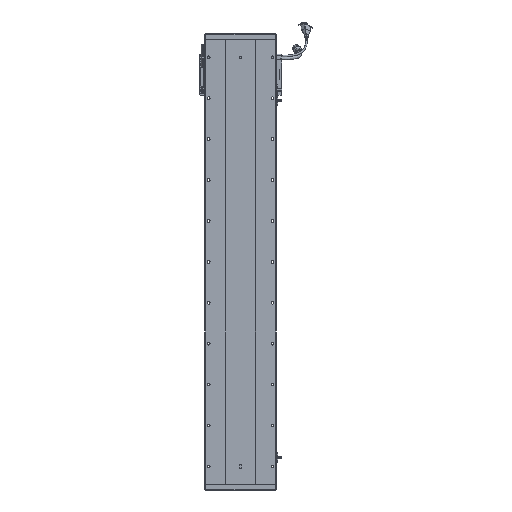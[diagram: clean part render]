
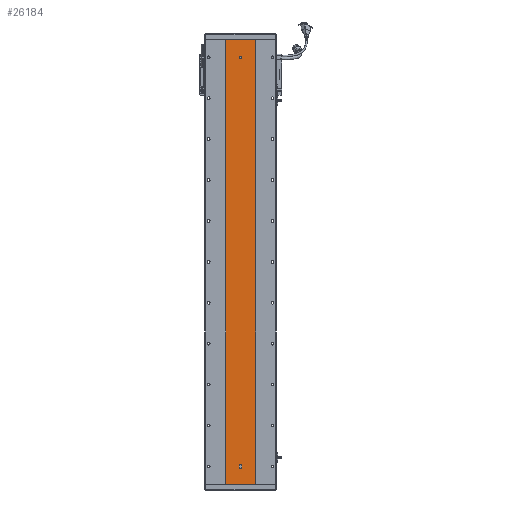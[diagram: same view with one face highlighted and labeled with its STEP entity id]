
A CAD part, front view. The second image highlights one B-rep face of the part: STEP entity #26184.
In plain terms, the highlighted planar face has unit normal (0, -1, 0).
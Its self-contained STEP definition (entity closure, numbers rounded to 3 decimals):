
#615 = AXIS2_PLACEMENT_3D ( 'NONE', #54805, #60440, #81382 ) ;
#736 = EDGE_CURVE ( 'NONE', #42211, #9853, #5295, .T. ) ;
#3143 = CARTESIAN_POINT ( 'NONE',  ( 3280.529, 1415.701, 42. ) ) ;
#4123 = DIRECTION ( 'NONE',  ( 0., 0., -1. ) ) ;
#4811 = EDGE_CURVE ( 'NONE', #84674, #58744, #32692, .T. ) ;
#5295 = CIRCLE ( 'NONE', #52925, 3. ) ;
#5492 = ORIENTED_EDGE ( 'NONE', *, *, #8928, .F. ) ;
#5669 = VECTOR ( 'NONE', #29907, 1000. ) ;
#6088 = CARTESIAN_POINT ( 'NONE',  ( 3280.529, 1415.701, 1040.5 ) ) ;
#8928 = EDGE_CURVE ( 'NONE', #68419, #28994, #79826, .T. ) ;
#9040 = EDGE_CURVE ( 'NONE', #64391, #28994, #82900, .T. ) ;
#9777 = VECTOR ( 'NONE', #24862, 1000. ) ;
#9853 = VERTEX_POINT ( 'NONE', #6088 ) ;
#10516 = CIRCLE ( 'NONE', #37977, 3. ) ;
#12006 = CARTESIAN_POINT ( 'NONE',  ( 3280.529, 1415.701, 1043.5 ) ) ;
#12290 = PLANE ( 'NONE',  #24039 ) ;
#13269 = EDGE_LOOP ( 'NONE', ( #74234, #80763 ) ) ;
#13920 = EDGE_CURVE ( 'NONE', #54475, #84674, #70787, .T. ) ;
#14614 = CIRCLE ( 'NONE', #49455, 3. ) ;
#18064 = CARTESIAN_POINT ( 'NONE',  ( 3277.529, 1415.701, 42. ) ) ;
#18380 = EDGE_LOOP ( 'NONE', ( #23683, #5492, #52383, #58412 ) ) ;
#19483 = VECTOR ( 'NONE', #4123, 1000. ) ;
#21121 = EDGE_CURVE ( 'NONE', #85695, #54475, #48979, .T. ) ;
#21193 = DIRECTION ( 'NONE',  ( 1., 0., 0. ) ) ;
#22128 = VERTEX_POINT ( 'NONE', #52193 ) ;
#23452 = CARTESIAN_POINT ( 'NONE',  ( 3277.529, 1415.701, 45. ) ) ;
#23683 = ORIENTED_EDGE ( 'NONE', *, *, #9040, .T. ) ;
#24039 = AXIS2_PLACEMENT_3D ( 'NONE', #53456, #80316, #59377 ) ;
#24862 = DIRECTION ( 'NONE',  ( 0., 0., -1. ) ) ;
#24909 = ORIENTED_EDGE ( 'NONE', *, *, #66238, .F. ) ;
#26184 = ADVANCED_FACE ( 'NONE', ( #83399, #29431, #61205 ), #12290, .F. ) ;
#28138 = CARTESIAN_POINT ( 'NONE',  ( 3280.529, 1415.701, 42. ) ) ;
#28356 = CARTESIAN_POINT ( 'NONE',  ( 3277.529, 1415.701, 45. ) ) ;
#28994 = VERTEX_POINT ( 'NONE', #40908 ) ;
#29431 = FACE_BOUND ( 'NONE', #13269, .T. ) ;
#29907 = DIRECTION ( 'NONE',  ( 1., 0., 0. ) ) ;
#30249 = CARTESIAN_POINT ( 'NONE',  ( 3316.311, 1415.701, 1087. ) ) ;
#31087 = CARTESIAN_POINT ( 'NONE',  ( 3244.748, 1415.701, 0. ) ) ;
#31479 = CARTESIAN_POINT ( 'NONE',  ( 3280.529, 1415.701, 39. ) ) ;
#31718 = DIRECTION ( 'NONE',  ( 0., 0., -1. ) ) ;
#32692 = LINE ( 'NONE', #23452, #53872 ) ;
#33045 = ORIENTED_EDGE ( 'NONE', *, *, #4811, .F. ) ;
#34167 = CARTESIAN_POINT ( 'NONE',  ( 3280.529, 1415.701, 1046.5 ) ) ;
#35202 = DIRECTION ( 'NONE',  ( 0., 0., 1. ) ) ;
#37977 = AXIS2_PLACEMENT_3D ( 'NONE', #28138, #67823, #75182 ) ;
#40908 = CARTESIAN_POINT ( 'NONE',  ( 3316.311, 1415.701, 0. ) ) ;
#42211 = VERTEX_POINT ( 'NONE', #34167 ) ;
#42469 = CARTESIAN_POINT ( 'NONE',  ( 3244.748, 1415.701, 1087. ) ) ;
#43291 = CARTESIAN_POINT ( 'NONE',  ( 3283.529, 1415.701, 45. ) ) ;
#43940 = EDGE_LOOP ( 'NONE', ( #68487, #33045, #47279, #47797, #24909 ) ) ;
#44153 = CARTESIAN_POINT ( 'NONE',  ( 3316.311, 1415.701, 1087. ) ) ;
#45358 = CARTESIAN_POINT ( 'NONE',  ( 3280.529, 1415.701, 1043.5 ) ) ;
#45925 = DIRECTION ( 'NONE',  ( 0., -1., 0. ) ) ;
#47142 = LINE ( 'NONE', #42469, #80947 ) ;
#47279 = ORIENTED_EDGE ( 'NONE', *, *, #13920, .F. ) ;
#47571 = VERTEX_POINT ( 'NONE', #31479 ) ;
#47797 = ORIENTED_EDGE ( 'NONE', *, *, #21121, .F. ) ;
#48336 = CARTESIAN_POINT ( 'NONE',  ( 3244.748, 1415.701, 0. ) ) ;
#48979 = LINE ( 'NONE', #76020, #65934 ) ;
#49455 = AXIS2_PLACEMENT_3D ( 'NONE', #3143, #84514, #57357 ) ;
#49875 = DIRECTION ( 'NONE',  ( 0., 0., -1. ) ) ;
#50093 = LINE ( 'NONE', #86331, #9777 ) ;
#50473 = EDGE_CURVE ( 'NONE', #9853, #42211, #58202, .T. ) ;
#51738 = DIRECTION ( 'NONE',  ( 0., -1., 0. ) ) ;
#52026 = DIRECTION ( 'NONE',  ( 0., 0., -1. ) ) ;
#52193 = CARTESIAN_POINT ( 'NONE',  ( 3244.748, 1415.701, 1087. ) ) ;
#52383 = ORIENTED_EDGE ( 'NONE', *, *, #83789, .F. ) ;
#52925 = AXIS2_PLACEMENT_3D ( 'NONE', #45358, #45925, #31718 ) ;
#53456 = CARTESIAN_POINT ( 'NONE',  ( 3244.748, 1415.701, 1087. ) ) ;
#53872 = VECTOR ( 'NONE', #49875, 1000. ) ;
#54475 = VERTEX_POINT ( 'NONE', #43291 ) ;
#54805 = CARTESIAN_POINT ( 'NONE',  ( 3280.529, 1415.701, 45. ) ) ;
#57357 = DIRECTION ( 'NONE',  ( 0., 0., -1. ) ) ;
#58202 = CIRCLE ( 'NONE', #80700, 3. ) ;
#58412 = ORIENTED_EDGE ( 'NONE', *, *, #86024, .T. ) ;
#58744 = VERTEX_POINT ( 'NONE', #18064 ) ;
#59377 = DIRECTION ( 'NONE',  ( 0., 0., 1. ) ) ;
#60440 = DIRECTION ( 'NONE',  ( 0., -1., 0. ) ) ;
#61205 = FACE_OUTER_BOUND ( 'NONE', #18380, .T. ) ;
#64391 = VERTEX_POINT ( 'NONE', #48336 ) ;
#65934 = VECTOR ( 'NONE', #35202, 1000. ) ;
#66238 = EDGE_CURVE ( 'NONE', #47571, #85695, #10516, .T. ) ;
#66928 = EDGE_CURVE ( 'NONE', #58744, #47571, #14614, .T. ) ;
#67823 = DIRECTION ( 'NONE',  ( 0., -1., 0. ) ) ;
#68419 = VERTEX_POINT ( 'NONE', #30249 ) ;
#68487 = ORIENTED_EDGE ( 'NONE', *, *, #66928, .F. ) ;
#69006 = CARTESIAN_POINT ( 'NONE',  ( 3283.529, 1415.701, 42. ) ) ;
#70787 = CIRCLE ( 'NONE', #615, 3. ) ;
#74234 = ORIENTED_EDGE ( 'NONE', *, *, #50473, .F. ) ;
#75182 = DIRECTION ( 'NONE',  ( 0., 0., -1. ) ) ;
#76020 = CARTESIAN_POINT ( 'NONE',  ( 3283.529, 1415.701, 45. ) ) ;
#79826 = LINE ( 'NONE', #44153, #19483 ) ;
#80316 = DIRECTION ( 'NONE',  ( 0., 1., 0. ) ) ;
#80700 = AXIS2_PLACEMENT_3D ( 'NONE', #12006, #51738, #52026 ) ;
#80763 = ORIENTED_EDGE ( 'NONE', *, *, #736, .F. ) ;
#80947 = VECTOR ( 'NONE', #21193, 1000. ) ;
#81382 = DIRECTION ( 'NONE',  ( 0., 0., -1. ) ) ;
#82900 = LINE ( 'NONE', #31087, #5669 ) ;
#83399 = FACE_BOUND ( 'NONE', #43940, .T. ) ;
#83789 = EDGE_CURVE ( 'NONE', #22128, #68419, #47142, .T. ) ;
#84514 = DIRECTION ( 'NONE',  ( 0., -1., 0. ) ) ;
#84674 = VERTEX_POINT ( 'NONE', #28356 ) ;
#85695 = VERTEX_POINT ( 'NONE', #69006 ) ;
#86024 = EDGE_CURVE ( 'NONE', #22128, #64391, #50093, .T. ) ;
#86331 = CARTESIAN_POINT ( 'NONE',  ( 3244.748, 1415.701, 1087. ) ) ;
